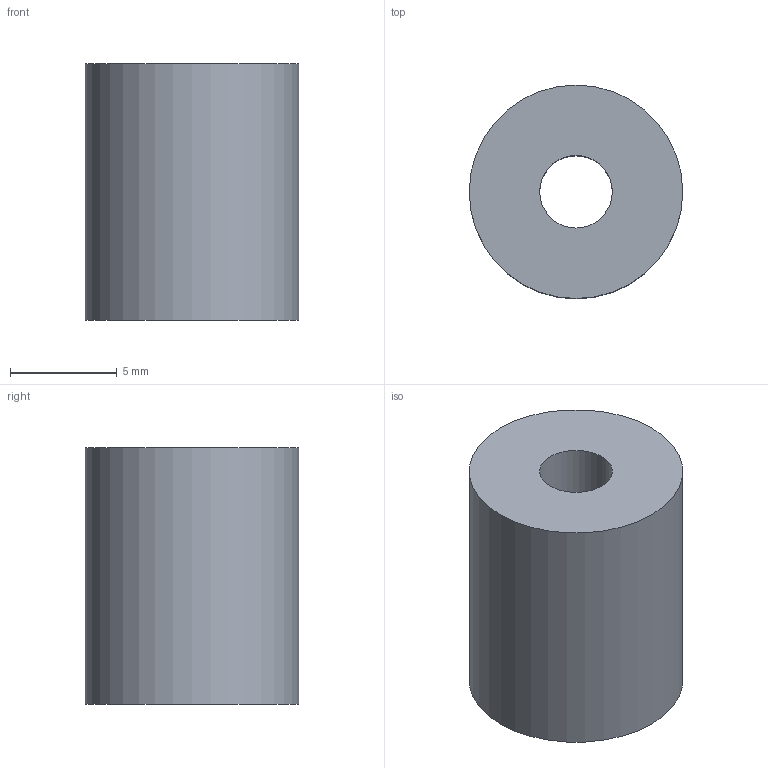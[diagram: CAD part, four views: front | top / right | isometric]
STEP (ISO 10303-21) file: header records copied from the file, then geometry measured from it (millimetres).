
FILE_DESCRIPTION(('Open CASCADE Model'),'2;1');
FILE_NAME('Open CASCADE Shape Model','2026-10-05T13:03:08',('Author'),( 'Open CASCADE'),'Open CASCADE STEP processor 7.9','Open CASCADE 7.9' ,'Unknown');
FILE_SCHEMA(('AUTOMOTIVE_DESIGN { 1 0 10303 214 1 1 1 1 }'));
Length unit declared in the file: millimetre
Products named in the file (1): Open CASCADE STEP translator 7.9 26
Bounding box: 10 x 10 x 12 mm (x, y, z)
Volume: 833.5 mm3; surface area: 644.1 mm2
Topology: 1 solids, 1 shells, 4 faces, 6 edges, 4 vertices
Faces by surface type: cylinder 2, plane 2
Full cylindrical faces by diameter (mm): 3.4 x1, 10 x1
Entity records: 186 total; most frequent: DIRECTION 32, CARTESIAN_POINT 27, ORIENTED_EDGE 12, PCURVE 12, DEFINITIONAL_REPRESENTATION 12, LINE 10, VECTOR 10, AXIS2_PLACEMENT_3D 9
